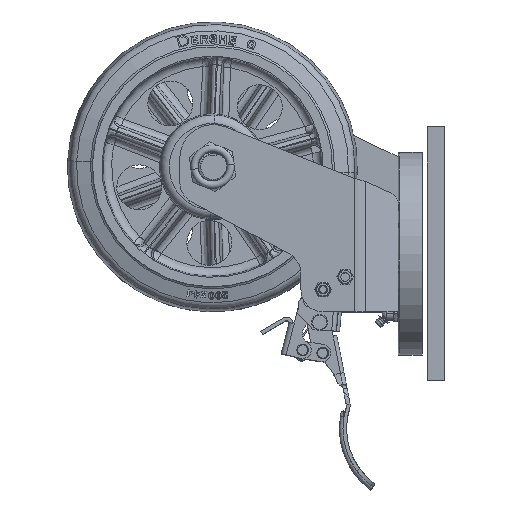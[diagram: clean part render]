
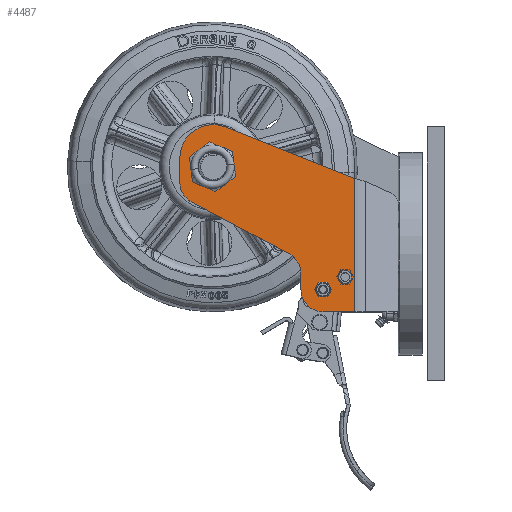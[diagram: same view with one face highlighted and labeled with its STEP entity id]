
A CAD part, top view. The second image highlights one B-rep face of the part: STEP entity #4487.
In plain terms, the highlighted planar face has unit normal (0, 0, 1).
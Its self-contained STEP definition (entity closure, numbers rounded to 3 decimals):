
#3448=CARTESIAN_POINT('',(-68.501,-16.,76.));
#3449=DIRECTION('',(0.,0.,1.));
#3450=DIRECTION('',(0.,1.,0.));
#3451=AXIS2_PLACEMENT_3D('',#3448,#3449,#3450);
#3453=CARTESIAN_POINT('',(-68.501,-16.,76.));
#3454=DIRECTION('',(0.,0.,1.));
#3455=DIRECTION('',(0.,-1.,0.));
#3456=AXIS2_PLACEMENT_3D('',#3453,#3454,#3455);
#3458=CARTESIAN_POINT('',(-83.719,-24.719,76.));
#3459=DIRECTION('',(0.,0.,1.));
#3460=DIRECTION('',(0.,1.,0.));
#3461=AXIS2_PLACEMENT_3D('',#3458,#3459,#3460);
#3463=CARTESIAN_POINT('',(-83.719,-24.719,76.));
#3464=DIRECTION('',(0.,0.,1.));
#3465=DIRECTION('',(0.,-1.,0.));
#3466=AXIS2_PLACEMENT_3D('',#3463,#3464,#3465);
#3468=CARTESIAN_POINT('',(-160.,60.,76.));
#3469=DIRECTION('',(0.,0.,1.));
#3470=DIRECTION('',(0.,1.,0.));
#3471=AXIS2_PLACEMENT_3D('',#3468,#3469,#3470);
#3473=CARTESIAN_POINT('',(-160.,60.,76.));
#3474=DIRECTION('',(0.,0.,1.));
#3475=DIRECTION('',(0.,-1.,0.));
#3476=AXIS2_PLACEMENT_3D('',#3473,#3474,#3475);
#3478=DIRECTION('',(0.,1.,0.));
#3479=VECTOR('',#3478,91.96);
#3480=CARTESIAN_POINT('',(-62.,-40.,76.));
#3481=LINE('',#3480,#3479);
#3482=DIRECTION('',(-1.,0.,0.));
#3483=VECTOR('',#3482,21.719);
#3484=CARTESIAN_POINT('',(-62.,-40.,76.));
#3485=LINE('',#3484,#3483);
#3486=CARTESIAN_POINT('',(-83.719,-24.719,76.));
#3487=DIRECTION('',(0.,0.,-1.));
#3488=DIRECTION('',(0.,-1.,0.));
#3489=AXIS2_PLACEMENT_3D('',#3486,#3487,#3488);
#3491=DIRECTION('',(0.,1.,0.));
#3492=VECTOR('',#3491,11.319);
#3493=CARTESIAN_POINT('',(-99.001,-24.719,76.));
#3494=LINE('',#3493,#3492);
#3495=DIRECTION('',(-0.883,0.469,0.));
#3496=VECTOR('',#3495,76.535);
#3497=CARTESIAN_POINT('',(-106.96,-0.154,76.));
#3498=LINE('',#3497,#3496);
#3499=CARTESIAN_POINT('',(-167.5,49.014,76.));
#3500=DIRECTION('',(0.,0.,-1.));
#3501=DIRECTION('',(-0.469,-0.883,0.));
#3502=AXIS2_PLACEMENT_3D('',#3499,#3500,#3501);
#3504=DIRECTION('',(0.,1.,0.));
#3505=VECTOR('',#3504,17.056);
#3506=CARTESIAN_POINT('',(-182.5,49.014,76.));
#3507=LINE('',#3506,#3505);
#3508=CARTESIAN_POINT('',(-159.5,66.07,76.));
#3509=DIRECTION('',(0.,0.,-1.));
#3510=DIRECTION('',(-1.,0.,0.));
#3511=AXIS2_PLACEMENT_3D('',#3508,#3509,#3510);
#3513=DIRECTION('',(0.929,-0.37,0.));
#3514=VECTOR('',#3513,95.793);
#3515=CARTESIAN_POINT('',(-150.982,87.435,76.));
#3516=LINE('',#3515,#3514);
#3755=CARTESIAN_POINT('',(-114.001,-13.399,76.));
#3756=DIRECTION('',(0.,0.,1.));
#3757=DIRECTION('',(1.,0.,0.));
#3758=AXIS2_PLACEMENT_3D('',#3755,#3756,#3757);
#3889=CARTESIAN_POINT('',(-160.,70.1,76.));
#3890=CARTESIAN_POINT('',(-160.,49.9,76.));
#3891=VERTEX_POINT('',#3889);
#3892=VERTEX_POINT('',#3890);
#3897=CARTESIAN_POINT('',(-182.5,66.07,76.));
#3898=VERTEX_POINT('',#3897);
#3899=CARTESIAN_POINT('',(-150.982,87.435,76.));
#3900=VERTEX_POINT('',#3899);
#3905=CARTESIAN_POINT('',(-174.541,35.769,76.));
#3906=VERTEX_POINT('',#3905);
#3907=CARTESIAN_POINT('',(-182.5,49.014,76.));
#3908=VERTEX_POINT('',#3907);
#4015=CARTESIAN_POINT('',(-62.,51.96,76.));
#4016=VERTEX_POINT('',#4015);
#4041=CARTESIAN_POINT('',(-83.719,-21.619,76.));
#4042=CARTESIAN_POINT('',(-83.719,-27.819,76.));
#4043=VERTEX_POINT('',#4041);
#4044=VERTEX_POINT('',#4042);
#4069=CARTESIAN_POINT('',(-83.719,-40.,76.));
#4070=CARTESIAN_POINT('',(-99.001,-24.719,76.));
#4071=VERTEX_POINT('',#4069);
#4072=VERTEX_POINT('',#4070);
#4074=CARTESIAN_POINT('',(-106.96,-0.154,76.));
#4076=VERTEX_POINT('',#4074);
#4078=CARTESIAN_POINT('',(-99.001,-13.399,76.));
#4080=VERTEX_POINT('',#4078);
#4095=CARTESIAN_POINT('',(-62.,-40.,76.));
#4096=VERTEX_POINT('',#4095);
#4113=CARTESIAN_POINT('',(-68.501,-12.9,76.));
#4114=CARTESIAN_POINT('',(-68.501,-19.1,76.));
#4115=VERTEX_POINT('',#4113);
#4116=VERTEX_POINT('',#4114);
#4442=CARTESIAN_POINT('',(-32.,0.,76.));
#4443=DIRECTION('',(0.,0.,-1.));
#4444=DIRECTION('',(0.,1.,0.));
#4445=AXIS2_PLACEMENT_3D('',#4442,#4443,#4444);
#4446=PLANE('',#4445);
#4448=ORIENTED_EDGE('',*,*,#4447,.F.);
#4450=ORIENTED_EDGE('',*,*,#4449,.T.);
#4452=ORIENTED_EDGE('',*,*,#4451,.T.);
#4454=ORIENTED_EDGE('',*,*,#4453,.T.);
#4456=ORIENTED_EDGE('',*,*,#4455,.T.);
#4458=ORIENTED_EDGE('',*,*,#4457,.T.);
#4460=ORIENTED_EDGE('',*,*,#4459,.T.);
#4462=ORIENTED_EDGE('',*,*,#4461,.T.);
#4464=ORIENTED_EDGE('',*,*,#4463,.T.);
#4466=ORIENTED_EDGE('',*,*,#4465,.T.);
#4467=EDGE_LOOP('',(#4448,#4450,#4452,#4454,#4456,#4458,#4460,#4462,#4464,
#4466));
#4468=FACE_OUTER_BOUND('',#4467,.F.);
#4470=ORIENTED_EDGE('',*,*,#4469,.T.);
#4472=ORIENTED_EDGE('',*,*,#4471,.T.);
#4473=EDGE_LOOP('',(#4470,#4472));
#4474=FACE_BOUND('',#4473,.F.);
#4476=ORIENTED_EDGE('',*,*,#4475,.T.);
#4478=ORIENTED_EDGE('',*,*,#4477,.T.);
#4479=EDGE_LOOP('',(#4476,#4478));
#4480=FACE_BOUND('',#4479,.F.);
#4482=ORIENTED_EDGE('',*,*,#4481,.T.);
#4484=ORIENTED_EDGE('',*,*,#4483,.T.);
#4485=EDGE_LOOP('',(#4482,#4484));
#4486=FACE_BOUND('',#4485,.F.);
#3452=CIRCLE('',#3451,3.1);
#3457=CIRCLE('',#3456,3.1);
#3462=CIRCLE('',#3461,3.1);
#3467=CIRCLE('',#3466,3.1);
#3472=CIRCLE('',#3471,10.1);
#3477=CIRCLE('',#3476,10.1);
#3490=CIRCLE('',#3489,15.281);
#3503=CIRCLE('',#3502,15.);
#3512=CIRCLE('',#3511,23.);
#3759=CIRCLE('',#3758,15.);
#4447=EDGE_CURVE('',#4096,#4016,#3481,.T.);
#4449=EDGE_CURVE('',#4096,#4071,#3485,.T.);
#4451=EDGE_CURVE('',#4071,#4072,#3490,.T.);
#4453=EDGE_CURVE('',#4072,#4080,#3494,.T.);
#4455=EDGE_CURVE('',#4080,#4076,#3759,.T.);
#4457=EDGE_CURVE('',#4076,#3906,#3498,.T.);
#4459=EDGE_CURVE('',#3906,#3908,#3503,.T.);
#4461=EDGE_CURVE('',#3908,#3898,#3507,.T.);
#4463=EDGE_CURVE('',#3898,#3900,#3512,.T.);
#4465=EDGE_CURVE('',#3900,#4016,#3516,.T.);
#4469=EDGE_CURVE('',#4043,#4044,#3462,.T.);
#4471=EDGE_CURVE('',#4044,#4043,#3467,.T.);
#4475=EDGE_CURVE('',#3891,#3892,#3472,.T.);
#4477=EDGE_CURVE('',#3892,#3891,#3477,.T.);
#4481=EDGE_CURVE('',#4115,#4116,#3452,.T.);
#4483=EDGE_CURVE('',#4116,#4115,#3457,.T.);
#4487=ADVANCED_FACE('',(#4468,#4474,#4480,#4486),#4446,.F.);
